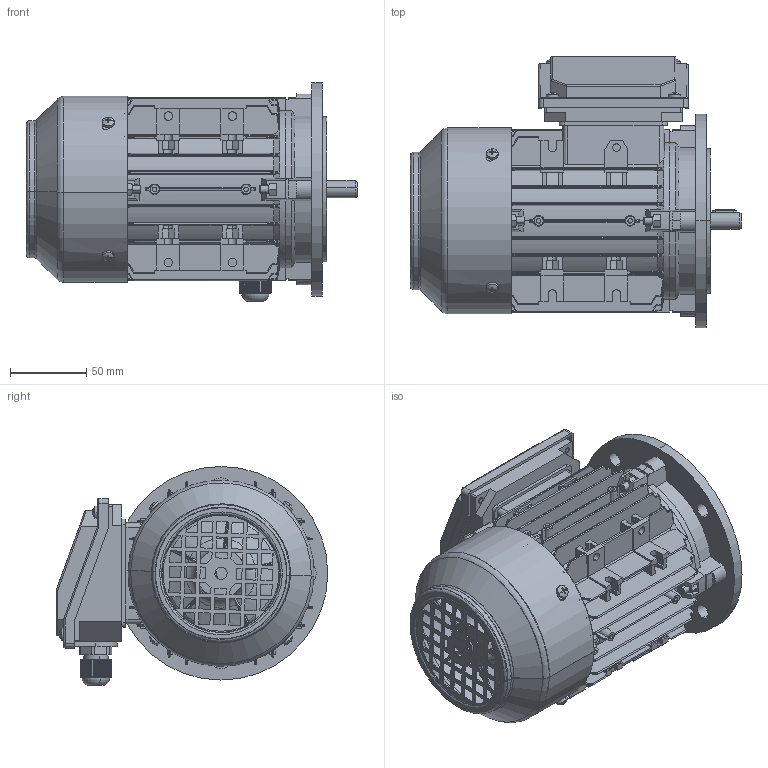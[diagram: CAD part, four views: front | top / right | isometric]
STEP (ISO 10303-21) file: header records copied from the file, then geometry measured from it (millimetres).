
FILE_DESCRIPTION (( 'STEP AP203' ), '1' );
FILE_NAME ('TAN63 B5蚾饜芞.STEP', '2018-07-21T08:23:07', ( '' ), ( '' ), 'SwSTEP 2.0', 'SolidWorks 2008', '' );
FILE_SCHEMA (( 'CONFIG_CONTROL_DESIGN' ));
Length unit declared in the file: millimetre
Products named in the file (14): TAN63 机壳_默认; TAN63 转轴_默认; Plain parallel keys_GB_CONNECTING_PIECE_KEYS_CSK 4X16; Cross recessed thread forming screws GB_GB_CROSS_SCREWS_TYPE138 M4X10-N; TAN63 B5盖_默认; TAN63 B5蚾饜芞; TAN63 后盖_默认; MS63 风叶_默认; TA63风罩_默认; 出线螺套M16_默认; Hexagon socket head cap screws GB_GB_FASTENER_SCREWS_HSHCS M5X25-N; Hexagon nuts grade C GB_GB_FASTENER_NUT_SNC1 M5-N; TA63斜接线盒盖_默认; TA63斜接线盒座 （配新壳）_默认
Assembly tree (34 placements, depth 2):
  TAN63 B5蚾饜芞
    MS63 风叶_默认
    出线螺套M16_默认
    Hexagon socket head cap screws GB_GB_FASTENER_SCREWS_HSHCS M5X25-N  x8
    Hexagon nuts grade C GB_GB_FASTENER_NUT_SNC1 M5-N  x8
    Cross recessed thread forming screws GB_GB_CROSS_SCREWS_TYPE138 M4X10-N  x8
    TA63斜接线盒座 （配新壳）_默认
    TAN63 机壳_默认
    TAN63 B5盖_默认
    Plain parallel keys_GB_CONNECTING_PIECE_KEYS_CSK 4X16
    TAN63 转轴_默认
    TA63斜接线盒盖_默认
    TA63风罩_默认
    TAN63 后盖_默认
Bounding box: 217 x 178 x 143.54 mm (x, y, z)
Volume: 511220.1 mm3; surface area: 403686.3 mm2
Topology: 34 solids, 34 shells, 3702 faces, 9716 edges, 6134 vertices
Faces by surface type: plane 1777, cylinder 914, bspline 494, cone 316, torus 171, sphere 30
Entity records: 116509 total; most frequent: CARTESIAN_POINT 38595, ORIENTED_EDGE 17160, DIRECTION 14219, EDGE_CURVE 8580, VERTEX_POINT 5455, AXIS2_PLACEMENT_3D 4980, VECTOR 4259, LINE 4259
